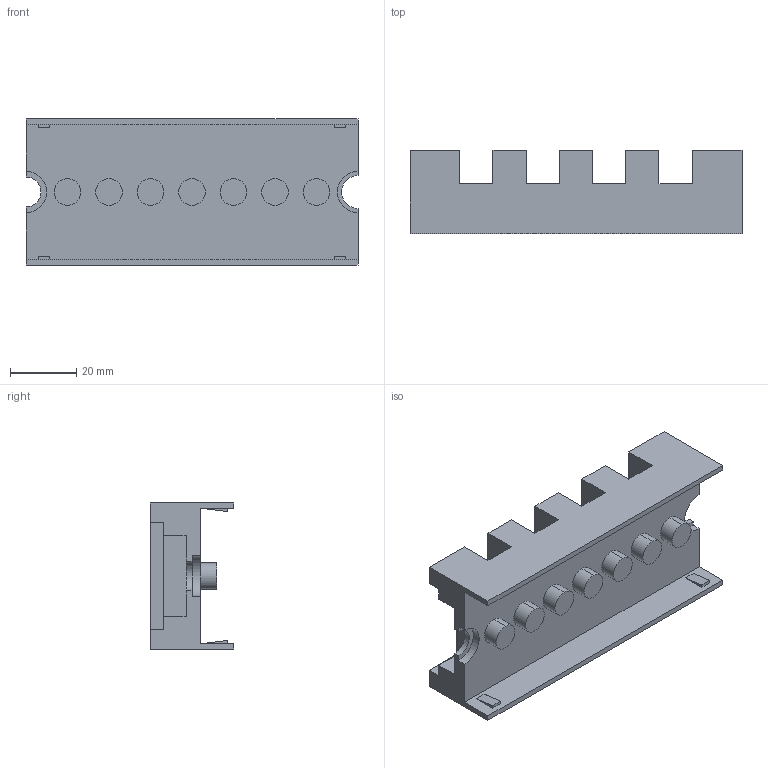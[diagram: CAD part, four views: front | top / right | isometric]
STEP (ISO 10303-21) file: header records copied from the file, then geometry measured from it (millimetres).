
FILE_DESCRIPTION (( 'STEP AP214' ), '1' );
FILE_NAME ('YIS40-10-04-100 Èçîëÿòîð øèíîäåðæàòåëÿ 100-10-4.STEP', '2025-08-19T13:00:05', ( '' ), ( '' ), 'SwSTEP 2.0', 'SolidWorks 2023', '' );
FILE_SCHEMA (( 'AUTOMOTIVE_DESIGN' ));
Length unit declared in the file: millimetre
Products named in the file (1): YIS40-10-04-100 Изолятор шинодержателя 100-10-4
Bounding box: 100 x 25 x 44 mm (x, y, z)
Volume: 45114.1 mm3; surface area: 21623.4 mm2
Topology: 1 solids, 1 shells, 130 faces, 342 edges, 228 vertices
Faces by surface type: plane 98, cylinder 32
Entity records: 4013 total; most frequent: CARTESIAN_POINT 701, ORIENTED_EDGE 684, DIRECTION 668, EDGE_CURVE 342, VECTOR 278, LINE 278, VERTEX_POINT 228, AXIS2_PLACEMENT_3D 195
